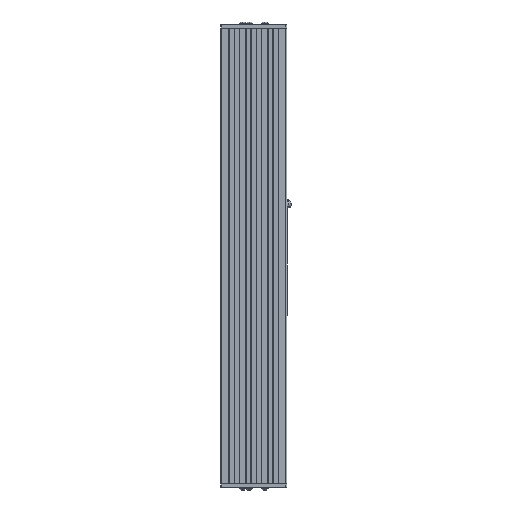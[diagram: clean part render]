
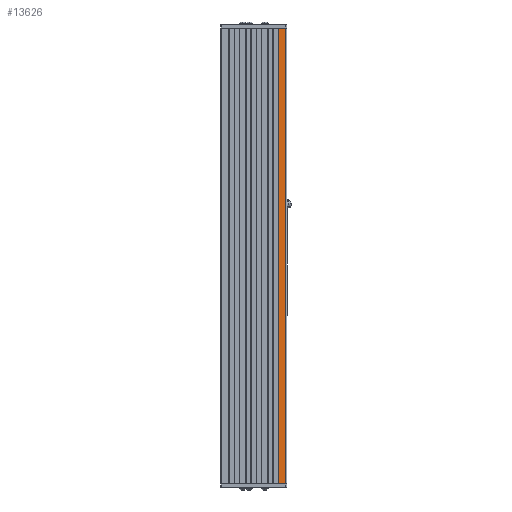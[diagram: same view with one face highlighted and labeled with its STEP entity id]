
A CAD part, front view. The second image highlights one B-rep face of the part: STEP entity #13626.
In plain terms, the highlighted planar face has unit normal (0, -1, 0).
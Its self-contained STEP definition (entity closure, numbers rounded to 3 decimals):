
#2344 = AXIS2_PLACEMENT_3D ( 'NONE', #3931, #3933, #3935 ) ;
#3929 = PLANE ( 'NONE',  #2344 ) ;
#3931 = CARTESIAN_POINT ( 'NONE',  ( 52.074, -36.746, 932. ) ) ;
#3933 = DIRECTION ( 'NONE',  ( 0., 1., 0. ) ) ;
#3935 = DIRECTION ( 'NONE',  ( 0., 0., 1. ) ) ;
#7056 = VERTEX_POINT ( 'NONE', #37310 ) ;
#7066 = VERTEX_POINT ( 'NONE', #34817 ) ;
#7085 = VERTEX_POINT ( 'NONE', #34836 ) ;
#7158 = VERTEX_POINT ( 'NONE', #34909 ) ;
#12012 = EDGE_CURVE ( 'NONE', #7158, #7085, #34044, .T. ) ;
#12013 = EDGE_CURVE ( 'NONE', #7066, #7056, #34046, .T. ) ;
#13626 = ADVANCED_FACE ( 'NONE', ( #35722 ), #3929, .F. ) ;
#13850 = EDGE_CURVE ( 'NONE', #7158, #7056, #36415, .T. ) ;
#13951 = EDGE_CURVE ( 'NONE', #7085, #7066, #41233, .T. ) ;
#15046 = CARTESIAN_POINT ( 'NONE',  ( 52.074, -36.746, 932. ) ) ;
#15047 = DIRECTION ( 'NONE',  ( 1., 0., 0. ) ) ;
#15673 = CARTESIAN_POINT ( 'NONE',  ( 52.074, -36.746, 0. ) ) ;
#15674 = DIRECTION ( 'NONE',  ( 1., 0., 0. ) ) ;
#20510 = CARTESIAN_POINT ( 'NONE',  ( 52.074, -36.746, 932. ) ) ;
#20511 = DIRECTION ( 'NONE',  ( 0., 0., -1. ) ) ;
#20512 = CARTESIAN_POINT ( 'NONE',  ( 66.574, -36.746, 932. ) ) ;
#20513 = DIRECTION ( 'NONE',  ( 0., 0., 1. ) ) ;
#31114 = EDGE_LOOP ( 'NONE', ( #34798, #34797, #34796, #34795 ) ) ;
#34044 = LINE ( 'NONE', #20510, #34045 ) ;
#34045 = VECTOR ( 'NONE', #20511, 1000. ) ;
#34046 = LINE ( 'NONE', #20512, #34047 ) ;
#34047 = VECTOR ( 'NONE', #20513, 1000. ) ;
#34795 = ORIENTED_EDGE ( 'NONE', *, *, #12012, .T. ) ;
#34796 = ORIENTED_EDGE ( 'NONE', *, *, #13850, .F. ) ;
#34797 = ORIENTED_EDGE ( 'NONE', *, *, #12013, .T. ) ;
#34798 = ORIENTED_EDGE ( 'NONE', *, *, #13951, .T. ) ;
#34817 = CARTESIAN_POINT ( 'NONE',  ( 66.574, -36.746, 0. ) ) ;
#34836 = CARTESIAN_POINT ( 'NONE',  ( 52.074, -36.746, 0. ) ) ;
#34909 = CARTESIAN_POINT ( 'NONE',  ( 52.074, -36.746, 932. ) ) ;
#35722 = FACE_OUTER_BOUND ( 'NONE', #31114, .T. ) ;
#36415 = LINE ( 'NONE', #15046, #36416 ) ;
#36416 = VECTOR ( 'NONE', #15047, 1000. ) ;
#37310 = CARTESIAN_POINT ( 'NONE',  ( 66.574, -36.746, 932. ) ) ;
#41233 = LINE ( 'NONE', #15673, #41234 ) ;
#41234 = VECTOR ( 'NONE', #15674, 1000. ) ;
